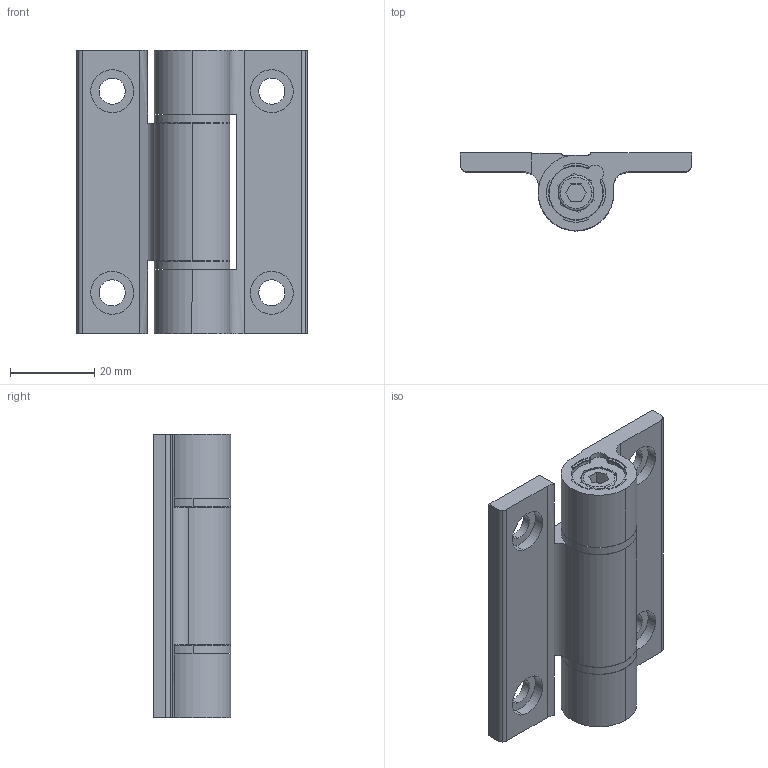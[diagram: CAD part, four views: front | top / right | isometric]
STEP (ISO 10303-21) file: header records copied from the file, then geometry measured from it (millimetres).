
FILE_DESCRIPTION((''),'2;1');
FILE_NAME('6874.stp','2011-03-25T13:41:38',(''),(''),'Mechanical Desktop 2006','Mechanical Desktop 2006',', , ');
FILE_SCHEMA(('CONFIG_CONTROL_DESIGN'));
Length unit declared in the file: millimetre
Products named in the file (8): 6874.03.77; TEIL1; TEIL2; TEIL3; TEIL4; TEIL5; TEIL6; TEIL7
Assembly tree (7 placements, depth 2):
  6874.03.77
    TEIL1
    TEIL2
    TEIL3
    TEIL4
    TEIL5
    TEIL6
    TEIL7
Bounding box: 55 x 18.5 x 67.5 mm (x, y, z)
Volume: 28874.9 mm3; surface area: 19062 mm2
Topology: 7 solids, 7 shells, 254 faces, 680 edges, 448 vertices
Faces by surface type: bspline 124, plane 122, cylinder 6, torus 2
Entity records: 9903 total; most frequent: CARTESIAN_POINT 3594, ORIENTED_EDGE 1360, DIRECTION 1218, EDGE_CURVE 680, VERTEX_POINT 448, AXIS2_PLACEMENT_3D 424, VECTOR 370, LINE 370
